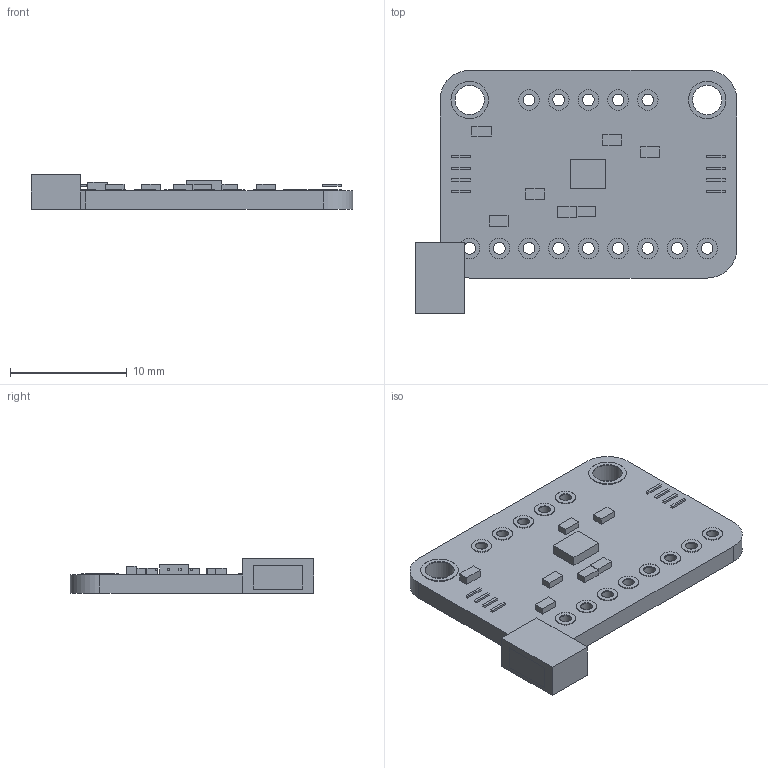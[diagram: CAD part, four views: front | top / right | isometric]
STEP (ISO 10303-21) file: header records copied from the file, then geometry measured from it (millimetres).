
FILE_DESCRIPTION(('FreeCAD Model'),'2;1');
FILE_NAME('Open CASCADE Shape Model','2026-11-14T08:22:00',('Author'),( ''),'Open CASCADE STEP processor 7.8','FreeCAD','Unknown');
FILE_SCHEMA(('AUTOMOTIVE_DESIGN { 1 0 10303 214 1 1 1 1 }'));
Length unit declared in the file: millimetre
Products named in the file (36): Board; PCB; Plated ring; Plated ring001; Plated ring002; Plated ring003; Plated ring004; Plated ring005; Plated ring006; Plated ring007; Plated ring008; Plated ring009; Plated ring010; Plated ring011; Plated ring012; Plated ring013; Plated ring014; Plated ring015; JST-SH 4-pin socket; JST-SH contact; JST-SH contact001; JST-SH contact002; JST-SH contact003; JST-SH 4-pin socket001; JST-SH contact004; JST-SH contact005; JST-SH contact006; JST-SH contact007; LSM6DS3TR-C; Power LED; Passive; Passive001; Passive002; Passive003; Passive004; Passive005
Assembly tree (35 placements, depth 2):
  Board
    PCB
    Plated ring
    Plated ring001
    Plated ring002
    Plated ring003
    Plated ring004
    Plated ring005
    Plated ring006
    Plated ring007
    Plated ring008
    Plated ring009
    Plated ring010
    Plated ring011
    Plated ring012
    Plated ring013
    Plated ring014
    Plated ring015
    JST-SH 4-pin socket
    JST-SH contact
    JST-SH contact001
    JST-SH contact002
    JST-SH contact003
    JST-SH 4-pin socket001
    JST-SH contact004
    JST-SH contact005
    JST-SH contact006
    JST-SH contact007
    LSM6DS3TR-C
    Power LED
    Passive
    Passive001
    Passive002
    Passive003
    Passive004
    Passive005
Bounding box: 27.52 x 20.83 x 2.95 mm (x, y, z)
Volume: 815.9 mm3; surface area: 1496.6 mm2
Topology: 35 solids, 35 shells, 208 faces, 408 edges, 272 vertices
Faces by surface type: plane 156, cylinder 52
Full cylindrical faces by diameter (mm): 1 x28, 1.76 x14, 2.5 x4, 3.2 x2
Entity records: 6016 total; most frequent: DIRECTION 1000, CARTESIAN_POINT 924, ORIENTED_EDGE 816, EDGE_CURVE 408, AXIS2_PLACEMENT_3D 348, LINE 304, VECTOR 304, FACE_BOUND 274
